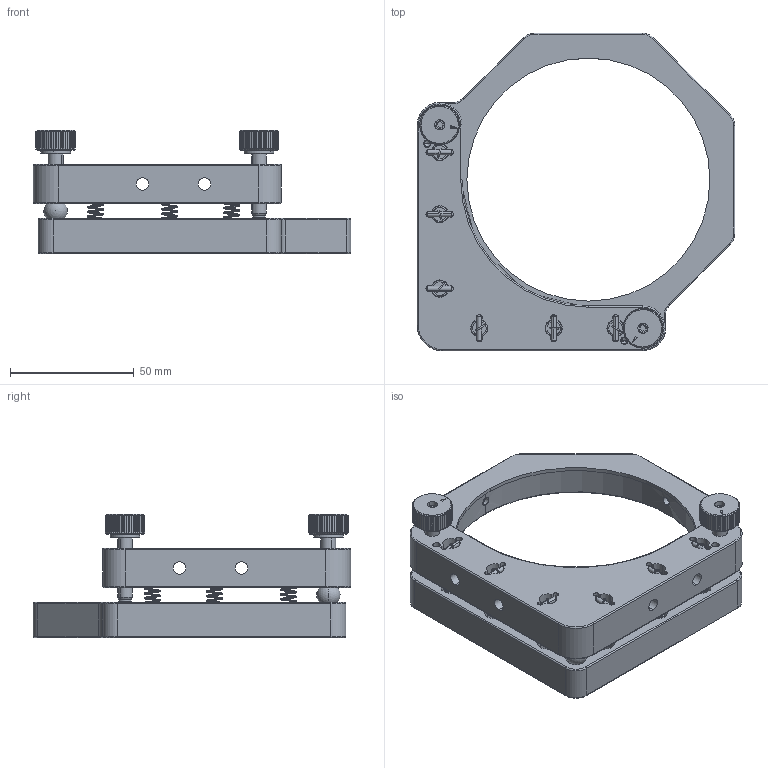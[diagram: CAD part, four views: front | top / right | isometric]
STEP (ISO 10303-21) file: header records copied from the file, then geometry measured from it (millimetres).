
FILE_DESCRIPTION (( 'STEP AP203' ), '1' );
FILE_NAME ('M-TMSO-4R-HOX.STEP', '2020-09-17T01:36:21', ( '匠星' ), ( '' ), 'SwSTEP 2.0', 'SolidWorks 2019', '' );
FILE_SCHEMA (( 'CONFIG_CONTROL_DESIGN' ));
Length unit declared in the file: millimetre
Products named in the file (1): M-TMSO-4R-HOX
Bounding box: 128 x 128 x 49.7 mm (x, y, z)
Surface area: 46338.6 mm2 (no closed solid volume)
Topology: 0 solids, 23 shells, 1028 faces, 2658 edges, 1699 vertices
Faces by surface type: cylinder 481, plane 383, torus 92, cone 32, sphere 22, bspline 18
Entity records: 45650 total; most frequent: CARTESIAN_POINT 21573, ORIENTED_EDGE 5240, DIRECTION 4869, EDGE_CURVE 2629, AXIS2_PLACEMENT_3D 1958, VERTEX_POINT 1692, EDGE_LOOP 1105, FACE_OUTER_BOUND 1028
